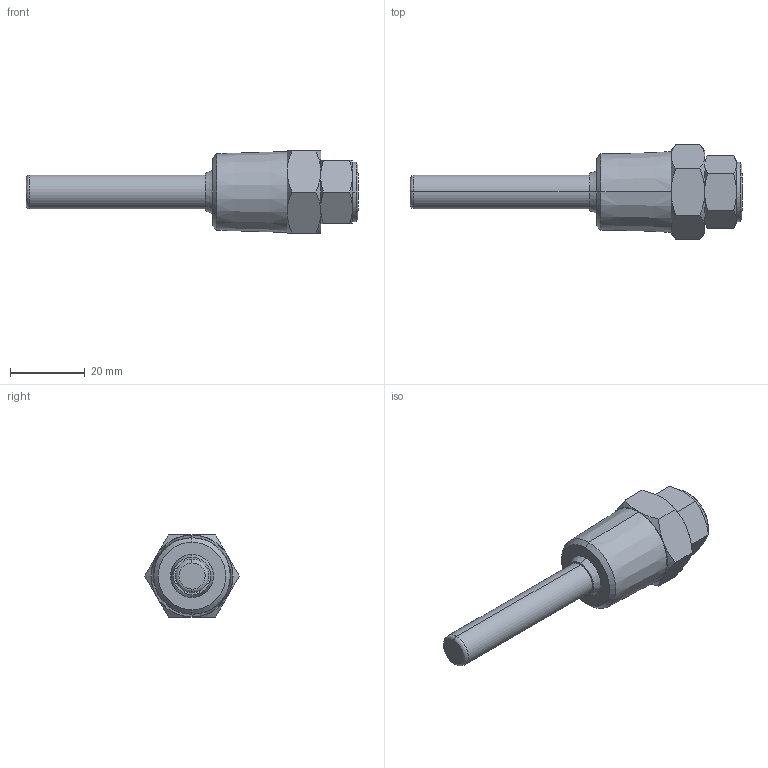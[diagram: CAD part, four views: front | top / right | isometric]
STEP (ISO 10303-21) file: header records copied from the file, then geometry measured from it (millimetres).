
FILE_DESCRIPTION (( 'STEP AP203' ), '1' );
FILE_NAME ('THW-6-N1_2-L050.step', '2016-07-13T16:09:18', ( 'Turck User' ), ( '' ), 'SwSTEP 2.0', 'SolidWorks 2015', '' );
FILE_SCHEMA (( 'CONFIG_CONTROL_DESIGN' ));
Length unit declared in the file: millimetre
Products named in the file (2): THW-6-N1_2-L050
Bounding box: 89 x 25.4 x 22 mm (x, y, z)
Volume: 16207.5 mm3; surface area: 4731.1 mm2
Topology: 1 solids, 1 shells, 63 faces, 133 edges, 78 vertices
Faces by surface type: cone 35, plane 20, cylinder 6, bspline 2
Entity records: 1985 total; most frequent: CARTESIAN_POINT 555, ORIENTED_EDGE 266, DIRECTION 261, EDGE_CURVE 133, AXIS2_PLACEMENT_3D 116, VERTEX_POINT 78, EDGE_LOOP 69, FACE_OUTER_BOUND 63
